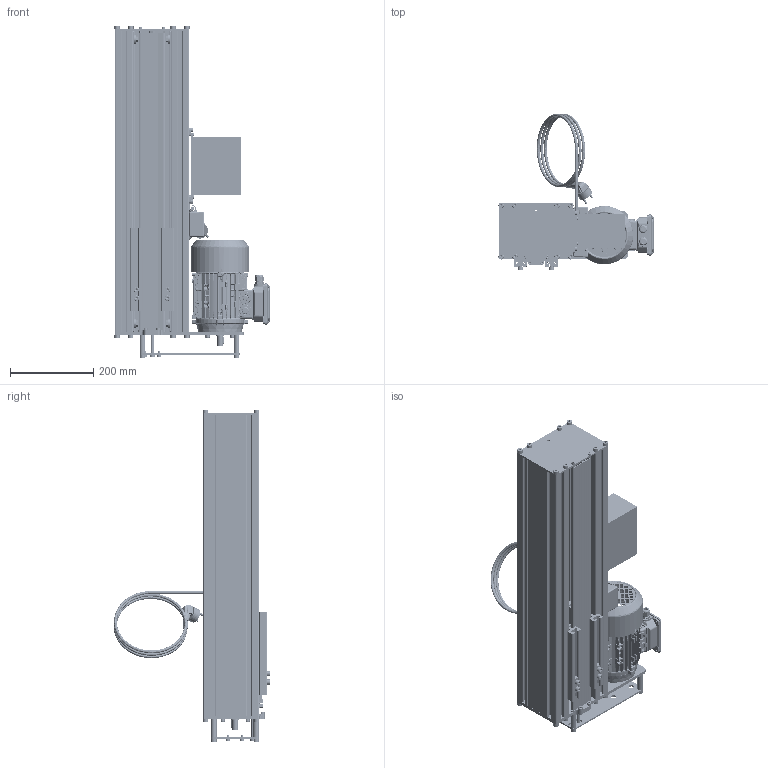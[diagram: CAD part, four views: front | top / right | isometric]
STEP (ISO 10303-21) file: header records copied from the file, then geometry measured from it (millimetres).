
FILE_DESCRIPTION (( 'STEP AP214' ), '1' );
FILE_NAME ('EZ03095.step', '2026-05-05T14:19:40', ( '' ), ( '' ), 'SwSTEP 2.0', 'SolidWorks 2024', '' );
FILE_SCHEMA (( 'AUTOMOTIVE_DESIGN' ));
Length unit declared in the file: millimetre
Products named in the file (68): Kotflügelscheibe 19,8x8,4x1,25; DIN 6340-8.4 - 8.8 verz._DIN 6340-8.4 - 8.8 verz.; TG527401 con scritta Motek. SENZA SCHEMA; EZ03096_Spindellänge:764mm; DIN 912 M8 x 55 --- 28N - 8.8 verz._DIN 912 M8 x 55 --- 28N - 8.8 verz.; EZ03488_Einbau-Version; Bremswiderstand-ARC HS50 4K7F; EZ00693; CV71SZ05 COPRIVENTOLA M71 H.77 Ø136,5 lamiera ITALGARD; EZ03488-Modell-Deckel; DIN 912 M5 x 30 --- 30N - 8.8 verz._DIN 912 M5 x 30 --- 30N - 8.8 verz.; FL71F401 FLAN.71 B14 TIR.BOR. Ø 35 FINITI 8 FIL. NPF; EZ03489_Einbau-Version; EZ00690_Länge:725mm; EZ03095; CBA2F005 COPRIBASETTA 2C. ALL. 56-71 M16x2; GUA560001 GUAR 56_71 IP44 INFERIORE 70X70; EZ03091_EB800,; Nutenstein M6-096166F ; EZ01735; ISO - 4032 - M8 - D - N - 8.8 verz._ISO - 4032 - M8 - D - N - 8.8 verz.; Washer DIN 125 - B 8.4 - 140HV verz._Washer DIN 125 - B 8.4 - 140HV verz.; EZ03284_Einbau-Version; DIN 7991 - M5 x 25 --- 25N - 8.8 verz._DIN 7991 - M5 x 25 --- 25N - 8.8 verz.; GUA560002 GUAR.56-71 IP65 95x95 SP.1,5 mm.; EZ00527_elektrisch; DIN 912 M6 x 12 --- 12N - 8.8 verz._DIN 912 M6 x 12 --- 12N - 8.8 verz.; EZ02250; Parallel key A5 x 5 x 18 DIN 6885St_Parallel key A5 x 5 x 18 DIN 6885St; DIN 7984 - M8 x 55 --- 22N - 8.8 verz._DIN 7984 - M8 x 55 --- 22N - 8.8 verz.; EZ02335; Nutenstein M8-096538_M8; BU0T0C03 VITE TAPTITE M4 x 12 TC CROCE ZNT UNI 7687; EZ00692_Länge: 716mm; ISO 7380-2 - M6 x 12 - 12N - 10.9 verz._ISO 7380 - M6 x 12 - 12N - 10.9 verz.; chiodo targhetta Ø2.3x9,5mm; DIN 912 M6 x 16 --- 16N - 8.8 verz._DIN 912 M6 x 16 --- 16N - 8.8 verz.; ISO 4017 - M8 x 16-N - 8.8 verz._ISO 4017 - M8 x 16-N - 8.8 verz.; TARGA  MOTEK SENZA SCHEMA AL.52X74-0,8 F.53 ANOD. NERA; estremità albero IEC71 STD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
Assembly tree (153 placements, depth 6):
  EZ03095
    EZ03091_EB800,
      EZ00690_Länge:725mm  x2
      33.0.010_Länge:715mm  x4
      EZ03054_Länge: 725mm-Hub 435+440
      EZ00692_Länge: 716mm
      Nutenstein M8-096538_M8  x4
      ISO 4017 - M8 x 16-N - 8.8 verz._ISO 4017 - M8 x 16-N - 8.8 verz.  x4
      DIN 6340-8.4 - 8.8 verz._DIN 6340-8.4 - 8.8 verz.  x4
    EZ02249
    DIN 912 M8 x 30 --- 30N - 8.8 verz._DIN 912 M8 x 30 --- 30N - 8.8 verz.  x16
    ISO - 4032 - M8 - D - N - 8.8 verz._ISO - 4032 - M8 - D - N - 8.8 verz.
    DIN 912 M5 x 30 --- 30N - 8.8 verz._DIN 912 M5 x 30 --- 30N - 8.8 verz.  x2
    Nutenstein M8-096538_Für 8er Nuten  x4
    EZ02232
    EZ03096_Spindellänge:764mm
      EZ00693
      Nutenstein M8-096538_Für 8er Nuten  x4
      DIN 912 M8 x 14 --- 14N - 8.8 verz._DIN 912 M8 x 14 --- 14N - 8.8 verz.  x4
    EZ00527_elektrisch
    DIN 7991 - M5 x 25 --- 25N - 8.8 verz._DIN 7991 - M5 x 25 --- 25N - 8.8 verz.  x2
    DIN 912 M6 x 12 --- 12N - 8.8 verz._DIN 912 M6 x 12 --- 12N - 8.8 verz.  x2
    EZ02602
      AC-Motor-MRMOC
        CR7150F1 CARCASSA 71 B5 Ø110 CAME (SIMIL NPF)81400671 TORNITA L.113mm
        CV71SZ05 COPRIVENTOLA M71 H.77 Ø136,5 lamiera ITALGARD
        estremità albero IEC71 STD
        TG527403 TARGA AL.52X74-0,8 F.53 ANOD. NERA
          TARGA  MOTEK SENZA SCHEMA AL.52X74-0,8 F.53 ANOD. NERA
            TG527401 con scritta Motek. SENZA SCHEMA
            chiodo targhetta Ø2.3x9,5mm  x2
          chiodo targhetta Ø2.3x9,5mm  x2
        FL71F401 FLAN.71 B14 TIR.BOR. Ø 35 FINITI 8 FIL. NPF
        Linguetta 5 x 5 x 20 UNI 6604-A
        CBA2F005 COPRIBASETTA 2C. ALL. 56-71 M16x2
          CBA2G001 COPRIBASETTA 2C. ALL. 5671 M16_2 M16
          GUA560001 GUAR 56_71 IP44 INFERIORE 70X70
          GUA560002 GUAR.56-71 IP65 95x95 SP.1,5 mm.
          COPERCHIO CB 2CA 56-71
          BU0T0C12 VITE TAPTITE 3,5X10 TC CROCE ZNT  x4
          BU0T0C03 VITE TAPTITE M4 x 12 TC CROCE ZNT UNI 7687  x4
          PSP16001 PRESSACAVO PLASTICA M16 x 1.5  x2
      Parallel key A5 x 5 x 18 DIN 6885St_Parallel key A5 x 5 x 18 DIN 6885St
      DIN 988-14x20x1 - St_DIN 988-14x20x1 - St  x6
    DIN 912 M6 x 16 --- 16N - 8.8 verz._DIN 912 M6 x 16 --- 16N - 8.8 verz.  x8
    DIN 912 M6 x 10 --- 10N - 8.8 verz._DIN 912 M6 x 10 --- 10N - 8.8 verz.  x4
    EZ01735  x4
    Washer DIN 125 - B 8.4 - 140HV verz._Washer DIN 125 - B 8.4 - 140HV verz.
    EZ02250
    Kotflügelscheibe 19,8x8,4x1,25
    DIN 7984 - M8 x 55 --- 22N - 8.8 verz._DIN 7984 - M8 x 55 --- 22N - 8.8 verz.
    DIN 912 M8 x 55 --- 28N - 8.8 verz._DIN 912 M8 x 55 --- 28N - 8.8 verz.  x4
    EZ02335  x2
    Nutenstein M6-096166F   x6
    Frequenzumrichter-HIFUS10005SFE
    ISO 7380-2 - M4 x 10 - 10N - 10.9 verz._ISO 7380 - M4 x 10 - 10N - 10.9 verz.  x4
    EZ03489_Einbau-Version
      EZ03488_Einbau-Version
        EZ03488-Modell-Bodenplatte
        EZ03488-Modell-Deckel
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Bounding box: 373.95 x 376.7 x 800 mm (x, y, z)
Volume: 6866170.9 mm3; surface area: 3084196.4 mm2
Topology: 147 solids, 151 shells, 13288 faces, 32720 edges, 19547 vertices
Faces by surface type: bspline 4439, plane 3942, cylinder 3747, cone 780, torus 278, sphere 102
Entity records: 477256 total; most frequent: CARTESIAN_POINT 246099, ORIENTED_EDGE 51606, DIRECTION 38173, EDGE_CURVE 25804, VERTEX_POINT 15668, AXIS2_PLACEMENT_3D 13733, EDGE_LOOP 11267, VECTOR 10707
